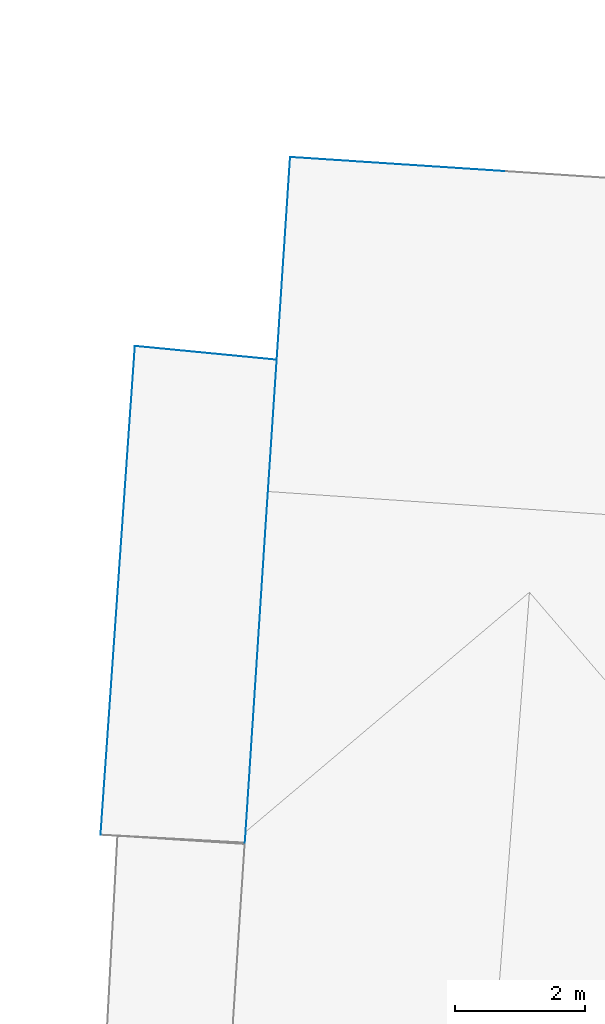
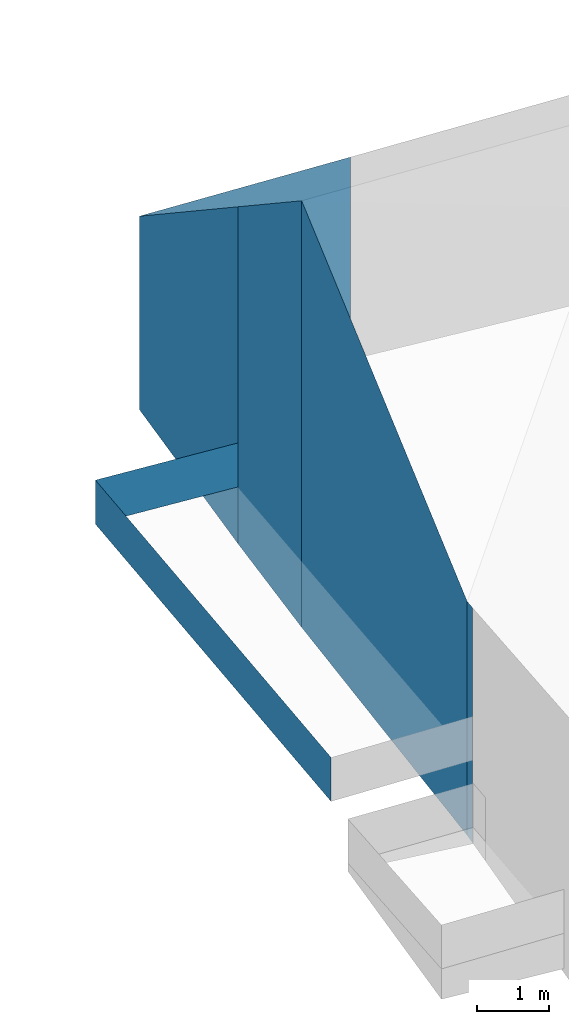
# Not in any storey, part 38 of 57: 9 walls.
"""IFC4 building model written with IfcOpenShell, lengths in metres."""

from ifc_helpers import new_model, entity, si_unit, converted_unit, origin, place, context, subcontext, project, spatial, face_set, surface_model, element, save


model = new_model("IFC4")

# Units and contexts
model_context = context("Model", 3, precision=1e-05, world=origin())
body_context = subcontext(model_context, "Body", "Model", "MODEL_VIEW")
ifc_project = project(units=[converted_unit("PLANEANGLEUNIT", "DEGREE", entity("IfcRatioMeasure", 0.0174532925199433), si_unit("PLANEANGLEUNIT", "RADIAN"), dimensions=[0, 0, 0, 0, 0, 0, 0]), si_unit("AREAUNIT", "SQUARE_METRE"), si_unit("LENGTHUNIT", "METRE")], contexts=[model_context])

# Site, building
site_placement = place(None, origin())
site = spatial("IfcSite", under=ifc_project, at=site_placement, Name="_site")
building_placement = place(site_placement, origin())
building = spatial("IfcBuilding", under=site, at=building_placement, Name="_building")

# Walls
wall_1_placement = place(building_placement, origin())
element("IfcWall", 1, at=wall_1_placement, inside=building, Name="Wall", PredefinedType="NOTDEFINED", context=body_context, shape_type="SurfaceModel", body=[
    surface_model("IfcFaceBasedSurfaceModel", [(211.801, 149.349, 116.92), (212.143, 154.564, 120.47), (212.143, 154.564, 113.195), (211.801, 149.349, 112.933)], [face_set([[[0, 1, 2, 3]]])]),
])
wall_2_placement = place(building_placement, origin())
element("IfcWall", 2, at=wall_2_placement, inside=building, Name="Wall", PredefinedType="NOTDEFINED", context=body_context, shape_type="SurfaceModel", body=[
    surface_model("IfcFaceBasedSurfaceModel", [(211.789, 149.179, 116.922), (211.801, 149.349, 116.92), (211.801, 149.349, 112.933), (211.789, 149.179, 112.914)], [face_set([[[0, 1, 2, 3]]])]),
])
wall_3_placement = place(building_placement, origin())
element("IfcWall", 3, at=wall_3_placement, inside=building, Name="Wall", PredefinedType="NOTDEFINED", context=body_context, shape_type="SurfaceModel", body=[
    surface_model("IfcFaceBasedSurfaceModel", [(212.483, 159.689, 116.98), (215.76, 159.473, 116.97), (215.76, 159.473, 113.513), (212.483, 159.689, 113.686)], [face_set([[[0, 1, 2, 3]]])]),
])
wall_4_placement = place(building_placement, origin())
element("IfcWall", 4, at=wall_4_placement, inside=building, Name="Wall", PredefinedType="NOTDEFINED", context=body_context, shape_type="SurfaceModel", body=[
    surface_model("IfcFaceBasedSurfaceModel", [(212.278, 156.582, 119.096), (212.483, 159.689, 116.98), (212.483, 159.689, 113.686), (212.278, 156.582, 113.355)], [face_set([[[0, 1, 2, 3]]])]),
])
wall_5_placement = place(building_placement, origin())
element("IfcWall", 5, at=wall_5_placement, inside=building, Name="Wall", PredefinedType="NOTDEFINED", context=body_context, shape_type="SurfaceModel", body=[
    surface_model("IfcFaceBasedSurfaceModel", [(212.143, 154.564, 120.47), (212.278, 156.582, 119.096), (212.278, 156.582, 113.355), (212.143, 154.564, 113.195)], [face_set([[[0, 1, 2, 3]]])]),
])
wall_6_placement = place(building_placement, origin())
element("IfcWall", 6, at=wall_6_placement, inside=building, Name="Wall", PredefinedType="NOTDEFINED", context=body_context, shape_type="SurfaceModel", body=[
    surface_model("IfcFaceBasedSurfaceModel", [(210.104, 156.793, 114.32), (212.278, 156.582, 114.32), (212.278, 156.582, 115.07), (210.104, 156.793, 115.07)], [face_set([[[0, 1, 2, 3]]])]),
])
wall_7_placement = place(building_placement, origin())
element("IfcWall", 7, at=wall_7_placement, inside=building, Name="Wall", PredefinedType="NOTDEFINED", context=body_context, shape_type="SurfaceModel", body=[
    surface_model("IfcFaceBasedSurfaceModel", [(209.578, 149.301, 114.32), (210.104, 156.793, 114.32), (210.104, 156.793, 115.07), (209.578, 149.301, 115.07)], [face_set([[[0, 1, 2, 3]]])]),
])
wall_8_placement = place(building_placement, origin())
element("IfcWall", 8, at=wall_8_placement, inside=building, Name="Wall", PredefinedType="NOTDEFINED", context=body_context, shape_type="SurfaceModel", body=[
    surface_model("IfcFaceBasedSurfaceModel", [(210.104, 156.793, 114.32), (212.278, 156.582, 114.32), (212.278, 156.582, 115.07), (210.104, 156.793, 115.07)], [face_set([[[0, 1, 2, 3]]])]),
])
wall_9_placement = place(building_placement, origin())
element("IfcWall", 9, at=wall_9_placement, inside=building, Name="Wall", PredefinedType="NOTDEFINED", context=body_context, shape_type="SurfaceModel", body=[
    surface_model("IfcFaceBasedSurfaceModel", [(209.578, 149.301, 114.32), (210.104, 156.793, 114.32), (210.104, 156.793, 115.07), (209.578, 149.301, 115.07)], [face_set([[[0, 1, 2, 3]]])]),
])

save(model, "model.ifc")
